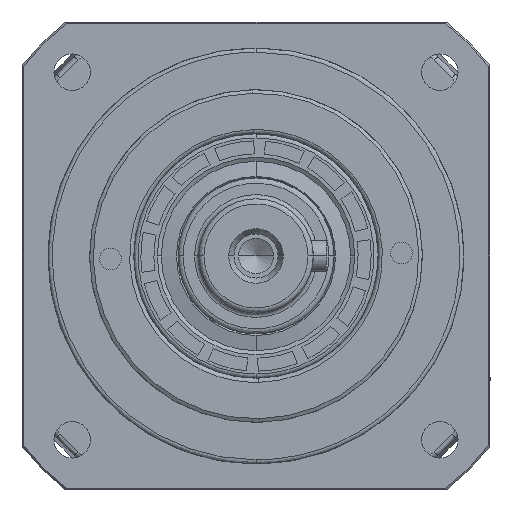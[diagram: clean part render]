
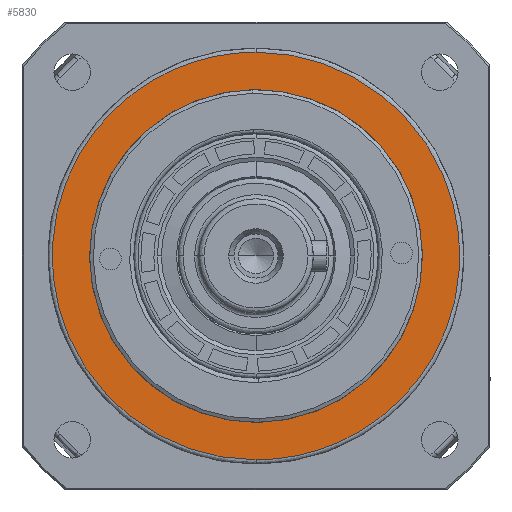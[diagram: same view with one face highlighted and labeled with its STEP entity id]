
A CAD part, left-side view. The second image highlights one B-rep face of the part: STEP entity #5830.
In plain terms, the highlighted planar face has unit normal (-1, 0, 0).
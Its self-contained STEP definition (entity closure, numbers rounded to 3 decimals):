
#274 =( BOUNDED_CURVE ( )  B_SPLINE_CURVE ( 3, ( #26370, #26527, #26848, #26302 ),
 .UNSPECIFIED., .F., .F. ) 
 B_SPLINE_CURVE_WITH_KNOTS ( ( 4, 4 ),
 ( 0., 1. ),
 .UNSPECIFIED. ) 
 CURVE ( )  GEOMETRIC_REPRESENTATION_ITEM ( )  RATIONAL_B_SPLINE_CURVE ( ( 1., 0.333, 0.333, 1. ) ) 
 REPRESENTATION_ITEM ( '' )  );
#3821 = ORIENTED_EDGE ( 'NONE', *, *, #28509, .F. ) ;
#4266 = CARTESIAN_POINT ( 'NONE',  ( 0., 0., -32. ) ) ;
#4457 = EDGE_CURVE ( 'NONE', #19263, #30157, #274, .T. ) ;
#5206 = ORIENTED_EDGE ( 'NONE', *, *, #5822, .F. ) ;
#5612 = DIRECTION ( 'NONE',  ( 0., 0., 1. ) ) ;
#5622 = DIRECTION ( 'NONE',  ( -1., 0., 0. ) ) ;
#5655 = CARTESIAN_POINT ( 'NONE',  ( 0., 0., 0. ) ) ;
#5822 = EDGE_CURVE ( 'NONE', #30157, #19263, #15795, .T. ) ;
#5830 = ADVANCED_FACE ( 'NONE', ( #18676, #15504 ), #20797, .F. ) ;
#6640 = CIRCLE ( 'NONE', #21824, 32. ) ;
#7609 = CARTESIAN_POINT ( 'NONE',  ( 0., 0., 39.2 ) ) ;
#12070 = AXIS2_PLACEMENT_3D ( 'NONE', #19822, #19347, #19227 ) ;
#15385 = CIRCLE ( 'NONE', #26129, 32. ) ;
#15504 = FACE_BOUND ( 'NONE', #28642, .T. ) ;
#15795 =( BOUNDED_CURVE ( )  B_SPLINE_CURVE ( 3, ( #21355, #21245, #20684, #20640 ),
 .UNSPECIFIED., .F., .T. ) 
 B_SPLINE_CURVE_WITH_KNOTS ( ( 4, 4 ),
 ( 0., 1. ),
 .UNSPECIFIED. ) 
 CURVE ( )  GEOMETRIC_REPRESENTATION_ITEM ( )  RATIONAL_B_SPLINE_CURVE ( ( 1., 0.333, 0.333, 1. ) ) 
 REPRESENTATION_ITEM ( '' )  );
#15940 = EDGE_LOOP ( 'NONE', ( #5206, #17923 ) ) ;
#17923 = ORIENTED_EDGE ( 'NONE', *, *, #4457, .F. ) ;
#18676 = FACE_OUTER_BOUND ( 'NONE', #15940, .T. ) ;
#18789 = EDGE_CURVE ( 'NONE', #34450, #20584, #6640, .T. ) ;
#19227 = DIRECTION ( 'NONE',  ( 0., 0., -1. ) ) ;
#19263 = VERTEX_POINT ( 'NONE', #20405 ) ;
#19347 = DIRECTION ( 'NONE',  ( 1., 0., 0. ) ) ;
#19822 = CARTESIAN_POINT ( 'NONE',  ( 0., 0., 0. ) ) ;
#20405 = CARTESIAN_POINT ( 'NONE',  ( 0., 0., -39.2 ) ) ;
#20584 = VERTEX_POINT ( 'NONE', #4266 ) ;
#20640 = CARTESIAN_POINT ( 'NONE',  ( 0., 0., -39.2 ) ) ;
#20684 = CARTESIAN_POINT ( 'NONE',  ( 0., -78.399, -39.2 ) ) ;
#20797 = PLANE ( 'NONE',  #12070 ) ;
#21245 = CARTESIAN_POINT ( 'NONE',  ( 0., -78.399, 39.2 ) ) ;
#21355 = CARTESIAN_POINT ( 'NONE',  ( 0., 0., 39.2 ) ) ;
#21824 = AXIS2_PLACEMENT_3D ( 'NONE', #27754, #27724, #27717 ) ;
#26129 = AXIS2_PLACEMENT_3D ( 'NONE', #5655, #5622, #5612 ) ;
#26207 = CARTESIAN_POINT ( 'NONE',  ( 0., 0., 32. ) ) ;
#26302 = CARTESIAN_POINT ( 'NONE',  ( 0., 0., 39.2 ) ) ;
#26370 = CARTESIAN_POINT ( 'NONE',  ( 0., 0., -39.2 ) ) ;
#26527 = CARTESIAN_POINT ( 'NONE',  ( 0., 78.399, -39.2 ) ) ;
#26848 = CARTESIAN_POINT ( 'NONE',  ( 0., 78.399, 39.2 ) ) ;
#27234 = ORIENTED_EDGE ( 'NONE', *, *, #18789, .F. ) ;
#27717 = DIRECTION ( 'NONE',  ( 0., 0., 1. ) ) ;
#27724 = DIRECTION ( 'NONE',  ( -1., 0., 0. ) ) ;
#27754 = CARTESIAN_POINT ( 'NONE',  ( 0., 0., 0. ) ) ;
#28509 = EDGE_CURVE ( 'NONE', #20584, #34450, #15385, .T. ) ;
#28642 = EDGE_LOOP ( 'NONE', ( #27234, #3821 ) ) ;
#30157 = VERTEX_POINT ( 'NONE', #7609 ) ;
#34450 = VERTEX_POINT ( 'NONE', #26207 ) ;
